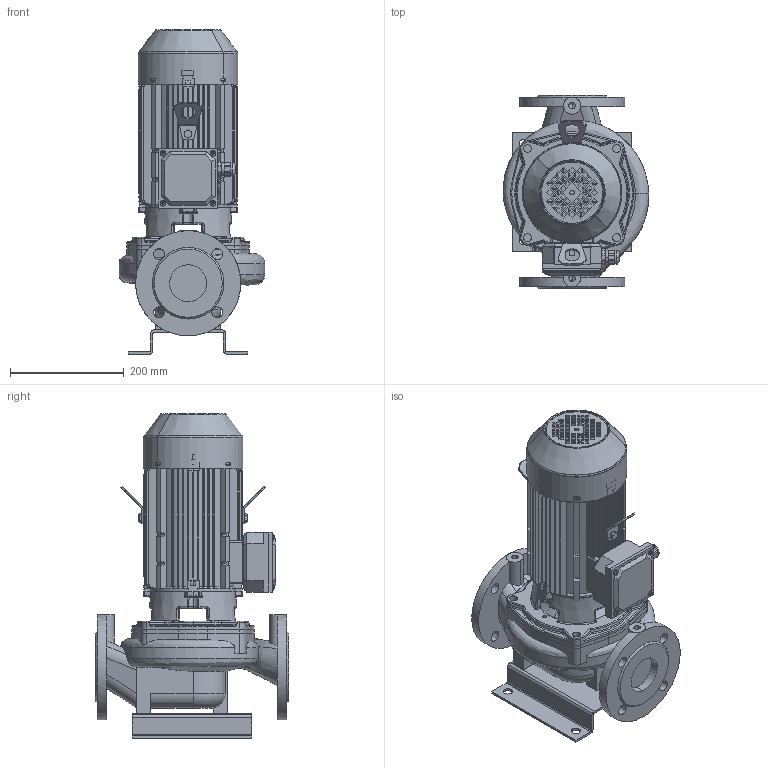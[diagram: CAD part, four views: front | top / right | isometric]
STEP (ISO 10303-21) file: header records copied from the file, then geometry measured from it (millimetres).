
FILE_DESCRIPTION(('STEP AP214'),'1');
FILE_NAME('export.stp','2018-05-29T06:57:38',(' '),(' '),'Spatial InterOp 3D',' ',' ');
FILE_SCHEMA(('AUTOMOTIVE_DESIGN { 1 0 10303 214 1 1 1 1 }'));
Length unit declared in the file: millimetre
Products named in the file (25): W_L65A4770_withou; V_TLL65AB80A1102; V_PPL65AB; V_JALKA35973; W_L65A4150_KP90; 160024; 160004_Valu; V_MKP90-2_F19; 480039; 480038___; 160141; 160137; 160138; 160139; 160140; Koura_Ale_M5; Plug_Blind_M20; Sealing_Plug_M20; DIN_7985-M5X8; DIN_7985-M5X12; 480037; 480036___; 160135; 160134; DIN_EN_24017_-_M8_16-Stainless_S
Assembly tree (29 placements, depth 4):
  W_L65A4150_KP90
    W_L65A4770_withou
      V_TLL65AB80A1102
      V_PPL65AB
      V_JALKA35973
    V_MKP90-2_F19
      160024
        160004_Valu
      480039
        480038___
      160141
        160137
        160138
        160139
        160140
        Koura_Ale_M5
        Plug_Blind_M20
        Sealing_Plug_M20
        DIN_7985-M5X8
        DIN_7985-M5X12  x4
      480037
        480036___
      160135
      160134  x2
      DIN_EN_24017_-_M8_16-Stainless_S  x2
Bounding box: 256.35 x 340 x 571 mm (x, y, z)
Volume: 6828044.6 mm3; surface area: 1471442 mm2
Topology: 23 solids, 23 shells, 2693 faces, 7118 edges, 4461 vertices
Faces by surface type: plane 1101, cylinder 832, torus 280, bspline 276, cone 167, sphere 37
Entity records: 101572 total; most frequent: CARTESIAN_POINT 35136, ORIENTED_EDGE 13520, DIRECTION 12555, EDGE_CURVE 6760, AXIS2_PLACEMENT_3D 4744, VERTEX_POINT 4283, LINE 3067, VECTOR 3067
